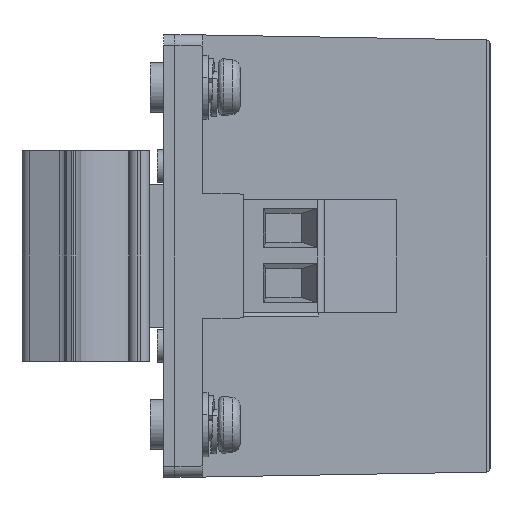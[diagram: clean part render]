
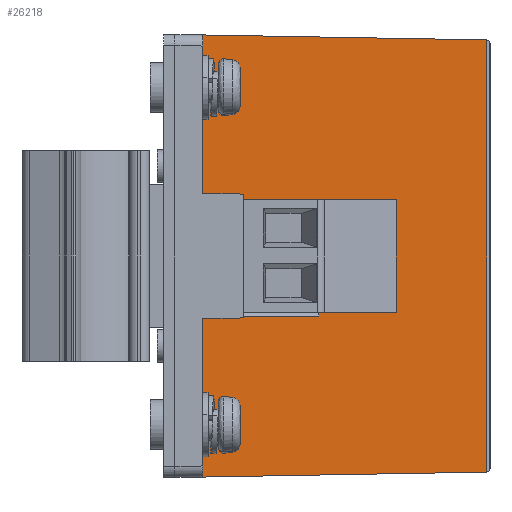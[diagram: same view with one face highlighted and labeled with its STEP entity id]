
A CAD part, left-side view. The second image highlights one B-rep face of the part: STEP entity #26218.
In plain terms, the highlighted planar face has unit normal (-1, -0.018, 0).
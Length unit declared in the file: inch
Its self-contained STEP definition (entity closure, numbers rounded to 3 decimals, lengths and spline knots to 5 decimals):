
#1218 = CARTESIAN_POINT ( 'NONE',  ( -1.78372, -0.09843, -0.78568 ) ) ;
#1225 = VERTEX_POINT ( 'NONE', #40014 ) ;
#1719 = CARTESIAN_POINT ( 'NONE',  ( -1.76608, -1.10847, -0.76805 ) ) ;
#1728 = LINE ( 'NONE', #6474, #25544 ) ;
#2504 = FACE_OUTER_BOUND ( 'NONE', #40682, .T. ) ;
#2600 = VECTOR ( 'NONE', #37742, 39.37008 ) ;
#4349 = CARTESIAN_POINT ( 'NONE',  ( -1.78117, -0.24409, -0.22015 ) ) ;
#5134 = CARTESIAN_POINT ( 'NONE',  ( -1.78543, 0., -0.7874 ) ) ;
#5457 = CARTESIAN_POINT ( 'NONE',  ( -1.78372, -0.09843, 0.78568 ) ) ;
#6474 = CARTESIAN_POINT ( 'NONE',  ( -1.78372, -0.09843, -0.7874 ) ) ;
#7084 = LINE ( 'NONE', #1218, #32479 ) ;
#7442 = LINE ( 'NONE', #13162, #56640 ) ;
#9594 = LINE ( 'NONE', #13519, #22247 ) ;
#9896 = DIRECTION ( 'NONE',  ( 0.017, -1., 0. ) ) ;
#11010 = VERTEX_POINT ( 'NONE', #5457 ) ;
#13118 = VERTEX_POINT ( 'NONE', #37319 ) ;
#13162 = CARTESIAN_POINT ( 'NONE',  ( -1.78117, -0.24409, -0.7874 ) ) ;
#13506 = ORIENTED_EDGE ( 'NONE', *, *, #38328, .T. ) ;
#13519 = CARTESIAN_POINT ( 'NONE',  ( -1.76608, -1.10847, 0.76805 ) ) ;
#15710 = EDGE_CURVE ( 'NONE', #61114, #32065, #50140, .T. ) ;
#16107 = CARTESIAN_POINT ( 'NONE',  ( -1.78372, -0.09843, 0.22269 ) ) ;
#16763 = DIRECTION ( 'NONE',  ( 0., 0., -1. ) ) ;
#17517 = VECTOR ( 'NONE', #40039, 39.37008 ) ;
#18394 = LINE ( 'NONE', #16107, #42400 ) ;
#19222 = EDGE_CURVE ( 'NONE', #13118, #1225, #53233, .T. ) ;
#22247 = VECTOR ( 'NONE', #42146, 39.37008 ) ;
#22649 = ORIENTED_EDGE ( 'NONE', *, *, #19222, .T. ) ;
#25451 = ORIENTED_EDGE ( 'NONE', *, *, #15710, .F. ) ;
#25544 = VECTOR ( 'NONE', #44614, 39.37008 ) ;
#26218 = ADVANCED_FACE ( 'NONE', ( #2504 ), #28663, .T. ) ;
#28443 = EDGE_CURVE ( 'NONE', #1225, #32065, #7084, .T. ) ;
#28663 = PLANE ( 'NONE',  #56560 ) ;
#32065 = VERTEX_POINT ( 'NONE', #1719 ) ;
#32479 = VECTOR ( 'NONE', #34609, 39.37008 ) ;
#32905 = CARTESIAN_POINT ( 'NONE',  ( -1.78372, -0.09843, -0.7874 ) ) ;
#33989 = VERTEX_POINT ( 'NONE', #4349 ) ;
#34609 = DIRECTION ( 'NONE',  ( 0.017, -1., 0.017 ) ) ;
#34997 = CARTESIAN_POINT ( 'NONE',  ( -1.78372, -0.09843, 0.22269 ) ) ;
#35259 = CARTESIAN_POINT ( 'NONE',  ( -1.78117, -0.24409, -0.22015 ) ) ;
#35648 = CARTESIAN_POINT ( 'NONE',  ( -1.78117, -0.24409, 0.22015 ) ) ;
#35691 = VERTEX_POINT ( 'NONE', #34997 ) ;
#36033 = VECTOR ( 'NONE', #16763, 39.37008 ) ;
#37319 = CARTESIAN_POINT ( 'NONE',  ( -1.78372, -0.09843, -0.22269 ) ) ;
#37742 = DIRECTION ( 'NONE',  ( 0., 0., -1. ) ) ;
#37912 = ORIENTED_EDGE ( 'NONE', *, *, #44892, .T. ) ;
#38328 = EDGE_CURVE ( 'NONE', #35691, #46924, #18394, .T. ) ;
#38585 = DIRECTION ( 'NONE',  ( -1., -0.017, 0. ) ) ;
#39871 = ORIENTED_EDGE ( 'NONE', *, *, #41559, .T. ) ;
#40014 = CARTESIAN_POINT ( 'NONE',  ( -1.78372, -0.09843, -0.78568 ) ) ;
#40039 = DIRECTION ( 'NONE',  ( -0.017, 1., -0.017 ) ) ;
#40682 = EDGE_LOOP ( 'NONE', ( #59998, #37912, #13506, #56520, #39871, #22649, #52515, #25451 ) ) ;
#41559 = EDGE_CURVE ( 'NONE', #33989, #13118, #54148, .T. ) ;
#41995 = DIRECTION ( 'NONE',  ( 0., 0., -1. ) ) ;
#42146 = DIRECTION ( 'NONE',  ( -0.017, 1., 0.017 ) ) ;
#42400 = VECTOR ( 'NONE', #49345, 39.37008 ) ;
#44614 = DIRECTION ( 'NONE',  ( 0., 0., -1. ) ) ;
#44892 = EDGE_CURVE ( 'NONE', #11010, #35691, #1728, .T. ) ;
#46924 = VERTEX_POINT ( 'NONE', #35648 ) ;
#48808 = CARTESIAN_POINT ( 'NONE',  ( -1.76608, -1.10847, 0.76805 ) ) ;
#49345 = DIRECTION ( 'NONE',  ( 0.017, -1., -0.017 ) ) ;
#50140 = LINE ( 'NONE', #59790, #36033 ) ;
#50663 = EDGE_CURVE ( 'NONE', #61114, #11010, #9594, .T. ) ;
#52515 = ORIENTED_EDGE ( 'NONE', *, *, #28443, .T. ) ;
#53233 = LINE ( 'NONE', #32905, #2600 ) ;
#54148 = LINE ( 'NONE', #35259, #17517 ) ;
#54885 = EDGE_CURVE ( 'NONE', #46924, #33989, #7442, .T. ) ;
#56520 = ORIENTED_EDGE ( 'NONE', *, *, #54885, .T. ) ;
#56560 = AXIS2_PLACEMENT_3D ( 'NONE', #5134, #38585, #9896 ) ;
#56640 = VECTOR ( 'NONE', #41995, 39.37008 ) ;
#59790 = CARTESIAN_POINT ( 'NONE',  ( -1.76608, -1.10847, -0.7874 ) ) ;
#59998 = ORIENTED_EDGE ( 'NONE', *, *, #50663, .T. ) ;
#61114 = VERTEX_POINT ( 'NONE', #48808 ) ;
